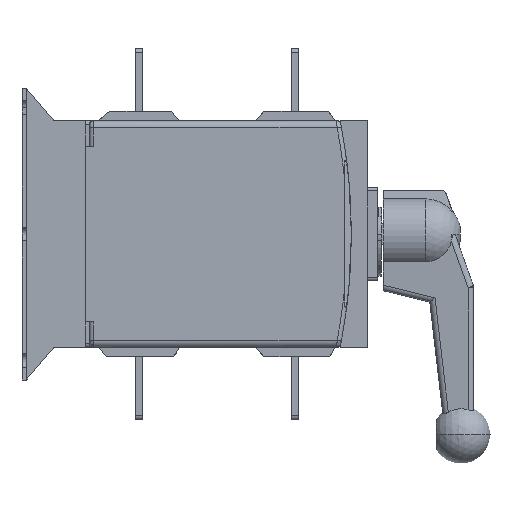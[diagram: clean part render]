
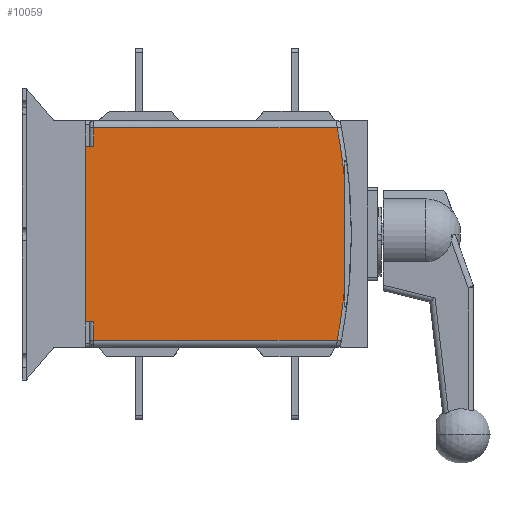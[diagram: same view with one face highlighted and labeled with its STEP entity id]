
A CAD part, left-side view. The second image highlights one B-rep face of the part: STEP entity #10059.
In plain terms, the highlighted planar face has unit normal (-1, 0, 0).
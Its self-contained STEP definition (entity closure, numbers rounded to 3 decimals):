
#319=DIRECTION('',(0.,0.,-1.));
#320=VECTOR('',#319,13.);
#321=CARTESIAN_POINT('',(-115.,-3.,-62.));
#322=LINE('',#321,#320);
#327=DIRECTION('',(0.,0.,1.));
#328=VECTOR('',#327,124.);
#329=CARTESIAN_POINT('',(-115.,3.,-62.));
#330=LINE('',#329,#328);
#331=CARTESIAN_POINT('',(-114.98,227.755,-1.181));
#332=DIRECTION('',(1.,0.,0.));
#333=DIRECTION('',(0.,-0.983,0.186));
#334=AXIS2_PLACEMENT_3D('',#331,#332,#333);
#336=CARTESIAN_POINT('',(-114.983,228.152,1.238));
#337=DIRECTION('',(1.,0.,0.));
#338=DIRECTION('',(0.,-0.994,-0.106));
#339=AXIS2_PLACEMENT_3D('',#336,#337,#338);
#341=DIRECTION('',(0.,-1.,0.));
#342=VECTOR('',#341,6.);
#343=CARTESIAN_POINT('',(-115.,3.,-62.));
#344=LINE('',#343,#342);
#731=DIRECTION('',(0.,1.,0.));
#732=VECTOR('',#731,6.);
#733=CARTESIAN_POINT('',(-115.,-3.,62.));
#734=LINE('',#733,#732);
#743=DIRECTION('',(0.,0.,-1.));
#744=VECTOR('',#743,13.);
#745=CARTESIAN_POINT('',(-115.,-3.,75.));
#746=LINE('',#745,#744);
#1916=DIRECTION('',(0.,-1.,0.));
#1917=VECTOR('',#1916,171.916);
#1918=CARTESIAN_POINT('',(-115.,-3.,-75.));
#1919=LINE('',#1918,#1917);
#1999=DIRECTION('',(0.,0.,1.));
#2000=VECTOR('',#1999,84.16);
#2001=CARTESIAN_POINT('',(-115.,-179.77,
-42.081));
#2002=LINE('',#2001,#2000);
#2109=DIRECTION('',(0.,1.,0.));
#2110=VECTOR('',#2109,171.916);
#2111=CARTESIAN_POINT('',(-115.,-174.916,
75.));
#2112=LINE('',#2111,#2110);
#7637=CARTESIAN_POINT('',(-115.,-3.,-62.));
#7638=CARTESIAN_POINT('',(-115.,-3.,-75.));
#7639=VERTEX_POINT('',#7637);
#7640=VERTEX_POINT('',#7638);
#7641=CARTESIAN_POINT('',(-115.,3.,-62.));
#7642=VERTEX_POINT('',#7641);
#7643=CARTESIAN_POINT('',(-115.,3.,62.));
#7644=VERTEX_POINT('',#7643);
#7645=CARTESIAN_POINT('',(-115.,-3.,62.));
#7646=VERTEX_POINT('',#7645);
#7647=CARTESIAN_POINT('',(-115.,-3.,75.));
#7648=VERTEX_POINT('',#7647);
#7649=CARTESIAN_POINT('',(-115.,-174.916,
75.));
#7650=VERTEX_POINT('',#7649);
#7651=CARTESIAN_POINT('',(-115.,-179.77,
42.075));
#7652=VERTEX_POINT('',#7651);
#7653=CARTESIAN_POINT('',(-115.,-179.77,
-42.081));
#7654=VERTEX_POINT('',#7653);
#7655=CARTESIAN_POINT('',(-115.,-174.917,
-75.));
#7656=VERTEX_POINT('',#7655);
#10033=CARTESIAN_POINT('',(-115.,0.,-80.));
#10034=DIRECTION('',(-1.,0.,0.));
#10035=DIRECTION('',(0.,0.,1.));
#10036=AXIS2_PLACEMENT_3D('',#10033,#10034,#10035);
#10037=PLANE('',#10036);
#10038=ORIENTED_EDGE('',*,*,#10023,.F.);
#10040=ORIENTED_EDGE('',*,*,#10039,.F.);
#10042=ORIENTED_EDGE('',*,*,#10041,.T.);
#10044=ORIENTED_EDGE('',*,*,#10043,.F.);
#10046=ORIENTED_EDGE('',*,*,#10045,.F.);
#10048=ORIENTED_EDGE('',*,*,#10047,.F.);
#10050=ORIENTED_EDGE('',*,*,#10049,.T.);
#10052=ORIENTED_EDGE('',*,*,#10051,.F.);
#10054=ORIENTED_EDGE('',*,*,#10053,.T.);
#10056=ORIENTED_EDGE('',*,*,#10055,.F.);
#10057=EDGE_LOOP('',(#10038,#10040,#10042,#10044,#10046,#10048,#10050,#10052,
#10054,#10056));
#10058=FACE_OUTER_BOUND('',#10057,.F.);
#335=CIRCLE('',#334,409.814);
#340=CIRCLE('',#339,410.215);
#10023=EDGE_CURVE('',#7639,#7640,#322,.T.);
#10039=EDGE_CURVE('',#7642,#7639,#344,.T.);
#10041=EDGE_CURVE('',#7642,#7644,#330,.T.);
#10043=EDGE_CURVE('',#7646,#7644,#734,.T.);
#10045=EDGE_CURVE('',#7648,#7646,#746,.T.);
#10047=EDGE_CURVE('',#7650,#7648,#2112,.T.);
#10049=EDGE_CURVE('',#7650,#7652,#335,.T.);
#10051=EDGE_CURVE('',#7654,#7652,#2002,.T.);
#10053=EDGE_CURVE('',#7654,#7656,#340,.T.);
#10055=EDGE_CURVE('',#7640,#7656,#1919,.T.);
#10059=ADVANCED_FACE('',(#10058),#10037,.T.);
